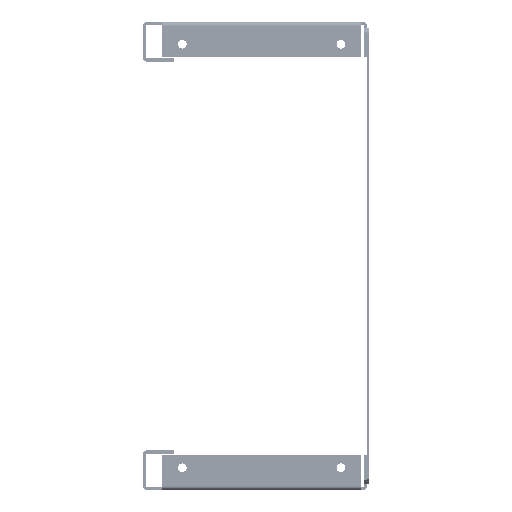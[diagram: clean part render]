
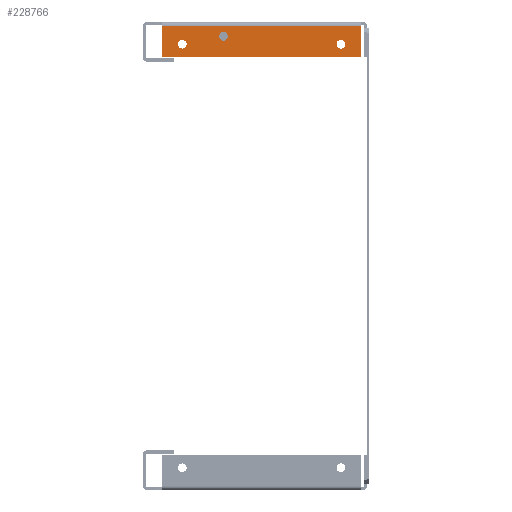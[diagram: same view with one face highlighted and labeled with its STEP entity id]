
A CAD part, left-side view. The second image highlights one B-rep face of the part: STEP entity #228766.
In plain terms, the highlighted planar face has unit normal (-1, 0, 0).
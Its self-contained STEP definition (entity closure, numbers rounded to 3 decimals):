
#176776=CARTESIAN_POINT(' ',(-770.,56.25,-2.6));
#176777=VERTEX_POINT(' ',#176776);
#176791=CARTESIAN_POINT(' ',(-770.,-68.75,-2.6));
#176796=DIRECTION(' ',(0.,1.,0.));
#176801=VECTOR(' ',#176796,1.);
#176806=LINE('',#176791,#176801);
#176811=CARTESIAN_POINT(' ',(-770.,-68.75,-2.6));
#176812=VERTEX_POINT(' ',#176811);
#176816=EDGE_CURVE(' ',#176812,#176777,#176806,.T.);
#200946=CARTESIAN_POINT(' ',(-770.,-68.75,-2.6));
#200951=DIRECTION(' ',(0.,0.,-1.));
#200956=VECTOR(' ',#200951,1.);
#200961=LINE('',#200946,#200956);
#200966=CARTESIAN_POINT(' ',(-770.,-68.75,-22.));
#200967=VERTEX_POINT(' ',#200966);
#200971=EDGE_CURVE(' ',#176812,#200967,#200961,.T.);
#201501=CARTESIAN_POINT(' ',(-770.,56.25,-22.));
#201502=VERTEX_POINT(' ',#201501);
#201516=CARTESIAN_POINT(' ',(-770.,56.25,-22.));
#201521=DIRECTION(' ',(0.,0.,1.));
#201526=VECTOR(' ',#201521,1.);
#201531=LINE('',#201516,#201526);
#201536=EDGE_CURVE(' ',#201502,#176777,#201531,.T.);
#228416=DIRECTION(' ',(-1.,0.,0.));
#228421=CARTESIAN_POINT(' ',(-770.,-68.75,-22.));
#228426=DIRECTION(' ',(0.,0.,1.));
#228431=AXIS2_PLACEMENT_3D(' ',#228421,#228416,#228426);
#228436=PLANE('NONE',#228431);
#228441=CARTESIAN_POINT(' ',(-770.,-68.75,-22.));
#228446=DIRECTION(' ',(0.,1.,0.));
#228451=VECTOR(' ',#228446,1.);
#228456=LINE('',#228441,#228451);
#228461=EDGE_CURVE(' ',#200967,#201502,#228456,.T.);
#228466=ORIENTED_EDGE(' ',*,*,#228461,.F.);
#228471=ORIENTED_EDGE(' ',*,*,#200971,.F.);
#228476=ORIENTED_EDGE(' ',*,*,#176816,.T.);
#228481=ORIENTED_EDGE(' ',*,*,#201536,.F.);
#228486=EDGE_LOOP(' ',(#228466,#228471,#228476,#228481));
#228491=FACE_OUTER_BOUND(' ',#228486,.T.);
#228496=CARTESIAN_POINT(' ',(-770.,-56.25,-14.));
#228501=DIRECTION(' ',(-1.,0.,0.));
#228506=DIRECTION(' ',(0.,0.,1.));
#228511=AXIS2_PLACEMENT_3D(' ',#228496,#228501,#228506);
#228516=CIRCLE('',#228511,2.75);
#228521=CARTESIAN_POINT(' ',(-770.,-56.25,-11.25));
#228522=VERTEX_POINT(' ',#228521);
#228526=CARTESIAN_POINT(' ',(-770.,-56.25,-16.75));
#228527=VERTEX_POINT(' ',#228526);
#228531=EDGE_CURVE(' ',#228522,#228527,#228516,.T.);
#228536=ORIENTED_EDGE(' ',*,*,#228531,.F.);
#228541=CARTESIAN_POINT(' ',(-770.,-56.25,-14.));
#228546=DIRECTION(' ',(-1.,0.,0.));
#228551=DIRECTION(' ',(0.,0.,-1.));
#228556=AXIS2_PLACEMENT_3D(' ',#228541,#228546,#228551);
#228561=CIRCLE('',#228556,2.75);
#228566=EDGE_CURVE(' ',#228527,#228522,#228561,.T.);
#228571=ORIENTED_EDGE(' ',*,*,#228566,.F.);
#228576=EDGE_LOOP(' ',(#228536,#228571));
#228581=FACE_BOUND(' ',#228576,.T.);
#228586=CARTESIAN_POINT(' ',(-770.,43.75,-14.));
#228591=DIRECTION(' ',(-1.,0.,0.));
#228596=DIRECTION(' ',(0.,0.,1.));
#228601=AXIS2_PLACEMENT_3D(' ',#228586,#228591,#228596);
#228606=CIRCLE('',#228601,2.75);
#228611=CARTESIAN_POINT(' ',(-770.,43.75,-11.25));
#228612=VERTEX_POINT(' ',#228611);
#228616=CARTESIAN_POINT(' ',(-770.,43.75,-16.75));
#228617=VERTEX_POINT(' ',#228616);
#228621=EDGE_CURVE(' ',#228612,#228617,#228606,.T.);
#228626=ORIENTED_EDGE(' ',*,*,#228621,.F.);
#228631=CARTESIAN_POINT(' ',(-770.,43.75,-14.));
#228636=DIRECTION(' ',(-1.,0.,0.));
#228641=DIRECTION(' ',(0.,0.,-1.));
#228646=AXIS2_PLACEMENT_3D(' ',#228631,#228636,#228641);
#228651=CIRCLE('',#228646,2.75);
#228656=EDGE_CURVE(' ',#228617,#228612,#228651,.T.);
#228661=ORIENTED_EDGE(' ',*,*,#228656,.F.);
#228666=EDGE_LOOP(' ',(#228626,#228661));
#228671=FACE_BOUND(' ',#228666,.T.);
#228676=CARTESIAN_POINT(' ',(-770.,17.75,-9.));
#228681=DIRECTION(' ',(-1.,0.,-0.));
#228686=DIRECTION(' ',(0.,-1.,0.));
#228691=AXIS2_PLACEMENT_3D(' ',#228676,#228681,#228686);
#228696=CIRCLE('',#228691,2.75);
#228701=CARTESIAN_POINT(' ',(-770.,15.,-9.));
#228702=VERTEX_POINT(' ',#228701);
#228706=CARTESIAN_POINT(' ',(-770.,20.5,-9.));
#228707=VERTEX_POINT(' ',#228706);
#228711=EDGE_CURVE(' ',#228702,#228707,#228696,.T.);
#228716=ORIENTED_EDGE(' ',*,*,#228711,.F.);
#228721=CARTESIAN_POINT(' ',(-770.,17.75,-9.));
#228726=DIRECTION(' ',(-1.,0.,0.));
#228731=DIRECTION(' ',(0.,1.,0.));
#228736=AXIS2_PLACEMENT_3D(' ',#228721,#228726,#228731);
#228741=CIRCLE('',#228736,2.75);
#228746=EDGE_CURVE(' ',#228707,#228702,#228741,.T.);
#228751=ORIENTED_EDGE(' ',*,*,#228746,.F.);
#228756=EDGE_LOOP(' ',(#228716,#228751));
#228761=FACE_BOUND(' ',#228756,.T.);
#228766=ADVANCED_FACE('NONE',(#228491,#228581,#228671,#228761),#228436,.T.);
